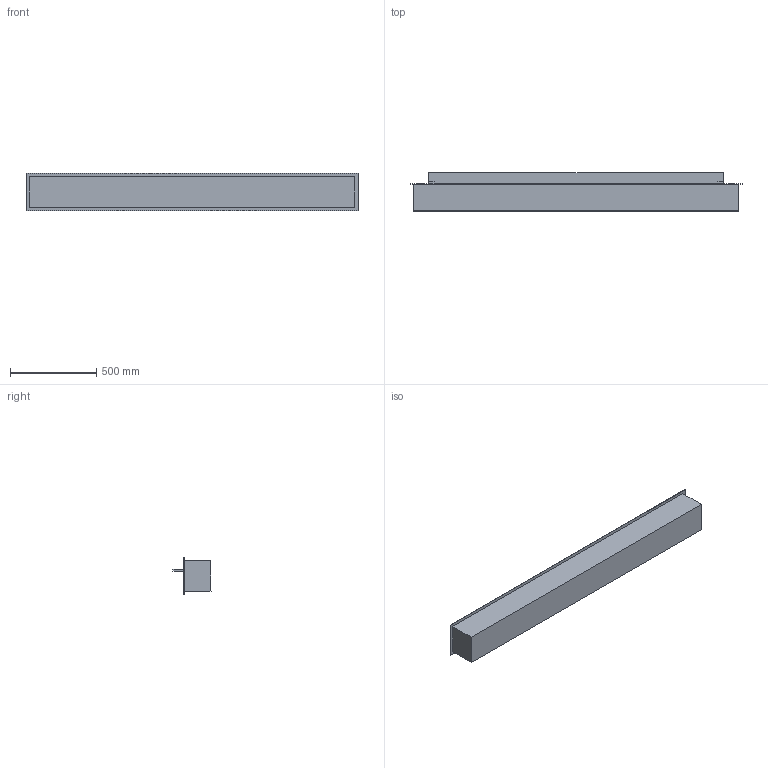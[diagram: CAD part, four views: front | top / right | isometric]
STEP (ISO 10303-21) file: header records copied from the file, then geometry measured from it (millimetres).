
FILE_DESCRIPTION (( 'STEP AP203' ), '1' );
FILE_NAME ('Denver F6 1920.STEP', '2024-03-13T09:21:46', ( '' ), ( '' ), 'SwSTEP 2.0', 'SolidWorks 2023', '' );
FILE_SCHEMA (( 'CONFIG_CONTROL_DESIGN' ));
Length unit declared in the file: millimetre
Products named in the file (1): Denver F6 1920
Bounding box: 1920 x 220 x 215 mm (x, y, z)
Volume: 53651319 mm3; surface area: 2425885.9 mm2
Topology: 8 solids, 8 shells, 68 faces, 156 edges, 104 vertices
Faces by surface type: plane 68
Entity records: 1955 total; most frequent: CARTESIAN_POINT 329, ORIENTED_EDGE 312, DIRECTION 294, LINE 156, EDGE_CURVE 156, VECTOR 156, VERTEX_POINT 104, EDGE_LOOP 74
